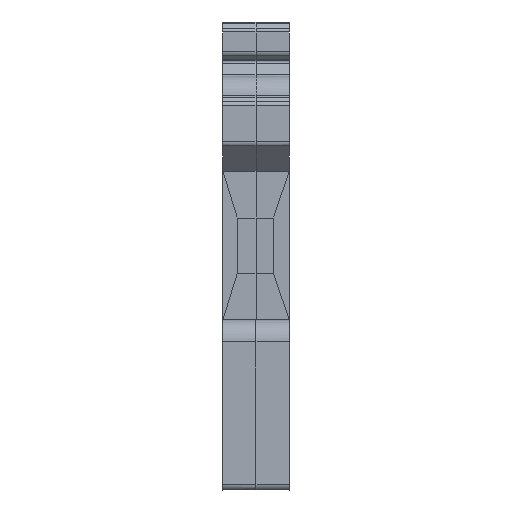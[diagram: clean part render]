
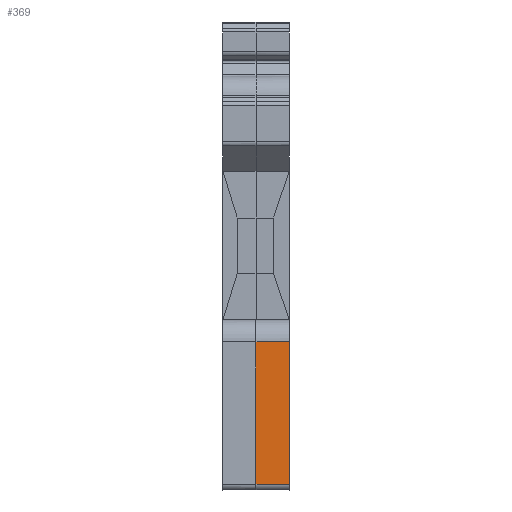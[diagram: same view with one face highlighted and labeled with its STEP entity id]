
A CAD part, left-side view. The second image highlights one B-rep face of the part: STEP entity #369.
In plain terms, the highlighted planar face has unit normal (-1, 0, 0).
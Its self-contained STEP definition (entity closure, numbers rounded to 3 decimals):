
#369 = ADVANCED_FACE( '', ( #965 ), #966, .F. );
#965 = FACE_OUTER_BOUND( '', #1787, .T. );
#966 = PLANE( '', #1788 );
#1787 = EDGE_LOOP( '', ( #2874, #2875, #2876, #2877 ) );
#1788 = AXIS2_PLACEMENT_3D( '', #2878, #2879, #2880 );
#2874 = ORIENTED_EDGE( '', *, *, #5159, .F. );
#2875 = ORIENTED_EDGE( '', *, *, #5160, .T. );
#2876 = ORIENTED_EDGE( '', *, *, #5161, .T. );
#2877 = ORIENTED_EDGE( '', *, *, #5162, .F. );
#2878 = CARTESIAN_POINT( '', ( -44.165, 6., 10.45 ) );
#2879 = DIRECTION( '', ( 1., 0., 0. ) );
#2880 = DIRECTION( '', ( 0., 0., -1. ) );
#5159 = EDGE_CURVE( '', #6424, #6425, #6426, .T. );
#5160 = EDGE_CURVE( '', #6424, #6427, #6428, .T. );
#5161 = EDGE_CURVE( '', #6427, #6429, #6430, .T. );
#5162 = EDGE_CURVE( '', #6425, #6429, #6431, .T. );
#6424 = VERTEX_POINT( '', #8518 );
#6425 = VERTEX_POINT( '', #8519 );
#6426 = LINE( '', #8520, #8521 );
#6427 = VERTEX_POINT( '', #8522 );
#6428 = LINE( '', #8523, #8524 );
#6429 = VERTEX_POINT( '', #8525 );
#6430 = LINE( '', #8526, #8527 );
#6431 = LINE( '', #8528, #8529 );
#8518 = CARTESIAN_POINT( '', ( -44.165, 3., -2.5 ) );
#8519 = CARTESIAN_POINT( '', ( -44.165, 3., 10.45 ) );
#8520 = CARTESIAN_POINT( '', ( -44.165, 3., 10.45 ) );
#8521 = VECTOR( '', #11015, 1000. );
#8522 = CARTESIAN_POINT( '', ( -44.165, 0., -2.5 ) );
#8523 = CARTESIAN_POINT( '', ( -44.165, 6., -2.5 ) );
#8524 = VECTOR( '', #11016, 1000. );
#8525 = CARTESIAN_POINT( '', ( -44.165, 0., 10.45 ) );
#8526 = CARTESIAN_POINT( '', ( -44.165, 0., 10.45 ) );
#8527 = VECTOR( '', #11017, 1000. );
#8528 = CARTESIAN_POINT( '', ( -44.165, 6., 10.45 ) );
#8529 = VECTOR( '', #11018, 1000. );
#11015 = DIRECTION( '', ( 0., 0., 1. ) );
#11016 = DIRECTION( '', ( 0., -1., 0. ) );
#11017 = DIRECTION( '', ( 0., 0., 1. ) );
#11018 = DIRECTION( '', ( 0., -1., 0. ) );
